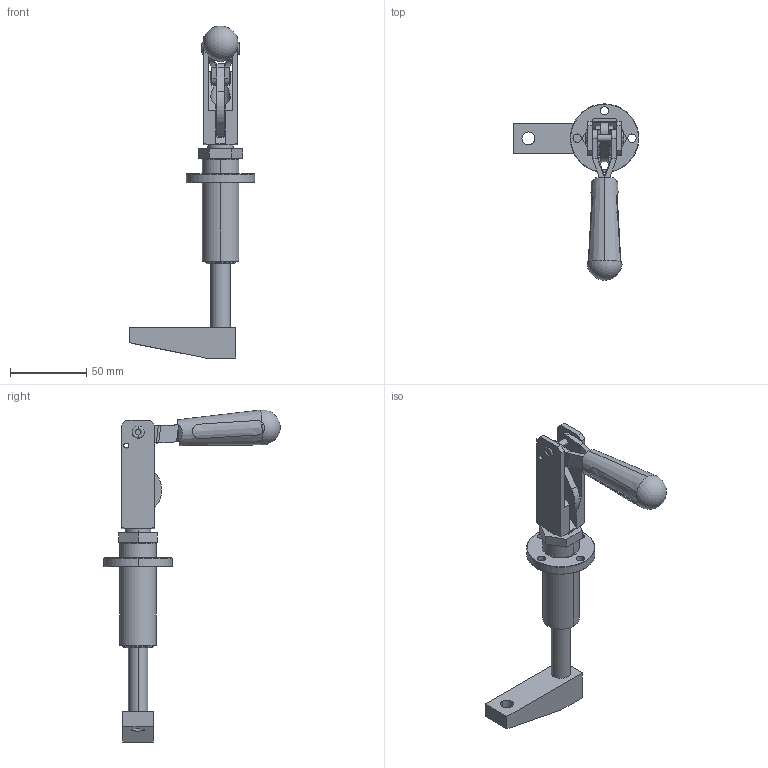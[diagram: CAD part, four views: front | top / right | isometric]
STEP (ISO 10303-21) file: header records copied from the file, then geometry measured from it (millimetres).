
FILE_DESCRIPTION((''),'2;1');
FILE_NAME('001_6004_DESTACO_ASM','2023-03-30T',('SYSTEM'),(''),'PRO/ENGINEER BY PARAMETRIC TECHNOLOGY CORPORATION, 2016360','PRO/ENGINEER BY PARAMETRIC TECHNOLOGY CORPORATION, 2016360','');
FILE_SCHEMA(('AUTOMOTIVE_DESIGN { 1 0 10303 214 1 1 1 1 }'));
Length unit declared in the file: inch
Products named in the file (8): 6004006; PISTON_GUIDE; HANDLE; LINK; SHAFT; PISTON; COVER; 001_6004_DESTACO_ASM
Assembly tree (7 placements, depth 2):
  001_6004_DESTACO_ASM
    6004006
    PISTON_GUIDE
    HANDLE
    LINK
    SHAFT
    PISTON
    COVER
Bounding box: 82.5 x 115.83 x 217.95 mm (x, y, z)
Volume: 110001.6 mm3; surface area: 55544.7 mm2
Topology: 7 solids, 11 shells, 413 faces, 1077 edges, 695 vertices
Faces by surface type: cylinder 158, plane 154, cone 48, torus 33, bspline 10, sphere 10
Entity records: 15536 total; most frequent: CARTESIAN_POINT 4412, DIRECTION 2204, ORIENTED_EDGE 2126, EDGE_CURVE 1063, AXIS2_PLACEMENT_3D 868, VERTEX_POINT 695, EDGE_LOOP 476, VECTOR 468
